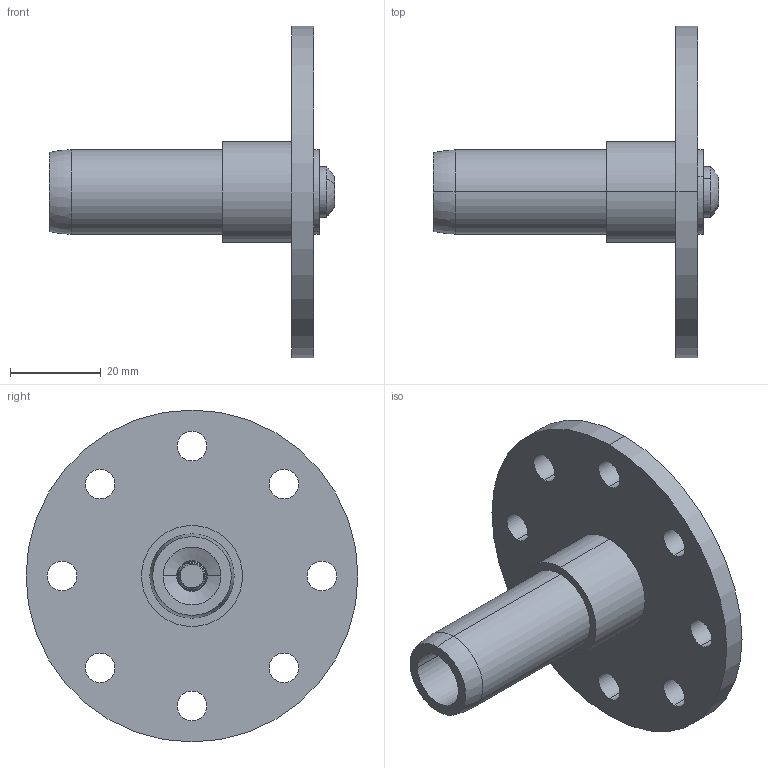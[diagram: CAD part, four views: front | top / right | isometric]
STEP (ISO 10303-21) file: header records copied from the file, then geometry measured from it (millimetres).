
FILE_DESCRIPTION (( 'STEP AP214' ), '1' );
FILE_NAME ('0.75 Inch 8 Hole Keyed Disc Kit.STEP', '2014-01-09T15:34:02', ( 'ydmin' ), ( 'Microsoft' ), 'SwSTEP 2.0', 'SolidWorks 2013', '' );
FILE_SCHEMA (( 'AUTOMOTIVE_DESIGN' ));
Length unit declared in the file: inch
Products named in the file (1): 0.75 Inch 8 Hole Keyed Disc Kit
Bounding box: 62.73 x 73.03 x 73.03 mm (x, y, z)
Volume: 30050.8 mm3; surface area: 17331.2 mm2
Topology: 5 solids, 5 shells, 231 faces, 513 edges, 296 vertices
Faces by surface type: cylinder 104, cone 77, plane 38, bspline 8, torus 2, sphere 2
Entity records: 12694 total; most frequent: CARTESIAN_POINT 4584, DIRECTION 1055, ORIENTED_EDGE 1026, EDGE_CURVE 513, AXIS2_PLACEMENT_3D 409, VERTEX_POINT 296, EDGE_LOOP 257, DIMENSIONAL_EXPONENTS 238
